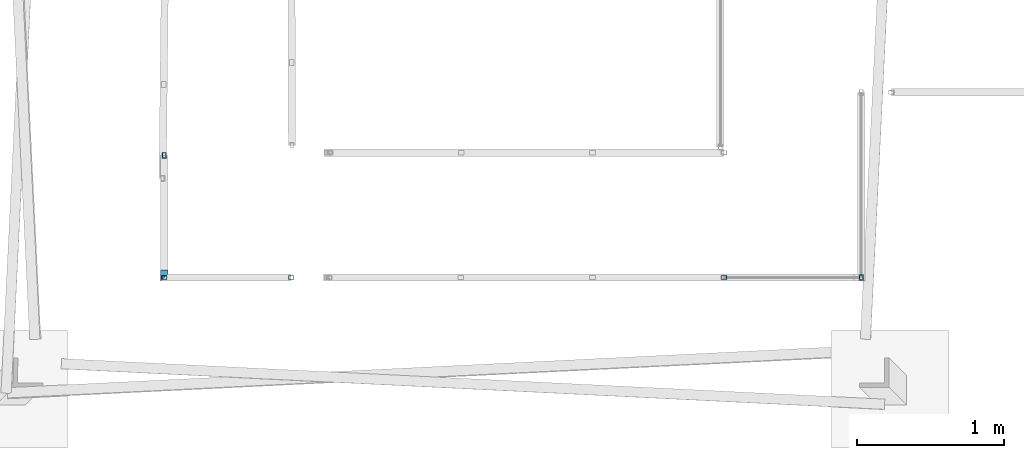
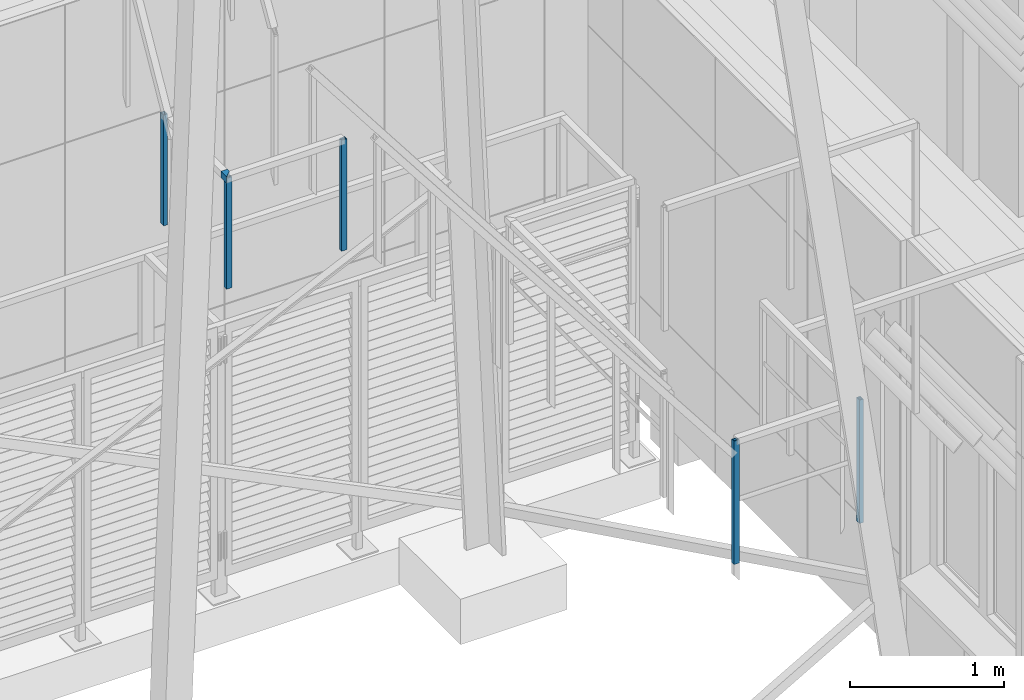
# One storey, part 14 of 418: 6 members, 2 elements without a shape of their own.
"""IFC2X3 building model written with IfcOpenShell, lengths in millimetres."""

from ifc_helpers import new_model, entity, si_unit, converted_unit, derived_unit, money_unit, direction, frame, origin_with_axes, place, context, subcontext, project, spatial, faceted_brep, source, transform, mapped, material, type_object, element, aggregate, save


model = new_model("IFC2X3")

# Units and contexts
model_context = context("Model", 3, precision=0.01, world=origin_with_axes(), true_north=direction((0.0, 1.0)))
body_context = subcontext(model_context, "Body", "Model", "MODEL_VIEW")
ifc_project = project(units=[si_unit("LENGTHUNIT", "METRE", prefix="MILLI"), si_unit("AREAUNIT", "SQUARE_METRE"), si_unit("VOLUMEUNIT", "CUBIC_METRE"), converted_unit("PLANEANGLEUNIT", "DEGREE", entity("IfcPlaneAngleMeasure", 0.0174532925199), si_unit("PLANEANGLEUNIT", "RADIAN"), dimensions=[0, 0, 0, 0, 0, 0, 0]), si_unit("SOLIDANGLEUNIT", "STERADIAN"), money_unit("EUR"), converted_unit("TIMEUNIT", "Year", entity("IfcTimeMeasure", 31556926.0), si_unit("TIMEUNIT", "SECOND"), dimensions=[0, 0, 1, 0, 0, 0, 0]), si_unit("MASSUNIT", "GRAM", prefix="KILO"), si_unit("THERMODYNAMICTEMPERATUREUNIT", "DEGREE_CELSIUS"), si_unit("LUMINOUSINTENSITYUNIT", "LUMEN"), si_unit("ENERGYUNIT", "JOULE", prefix="MEGA"), derived_unit("THERMALCONDUCTANCEUNIT", [(si_unit("POWERUNIT", "WATT"), 1), (si_unit("LENGTHUNIT", "METRE"), -1), (si_unit("THERMODYNAMICTEMPERATUREUNIT", "KELVIN"), -1)]), derived_unit("SPECIFICHEATCAPACITYUNIT", [(si_unit("ENERGYUNIT", "JOULE"), 1), (si_unit("MASSUNIT", "GRAM", prefix="KILO"), -1), (si_unit("THERMODYNAMICTEMPERATUREUNIT", "KELVIN"), -1)]), derived_unit("MASSDENSITYUNIT", [(si_unit("MASSUNIT", "GRAM", prefix="KILO"), 1), (si_unit("VOLUMEUNIT", "CUBIC_METRE"), -1)])], contexts=[model_context])

# Site, building, storey
site_placement = place(None, origin_with_axes())
site = spatial("IfcSite", under=ifc_project, at=site_placement, Name="Paldiski mnt 245/1, Tallinn, Harjumaa", CompositionType="COMPLEX")
building_placement = place(site_placement, origin_with_axes())
building = spatial("IfcBuilding", under=site, at=building_placement, Name="RKAS Hoone üldnimetus (kasutust iseloomustav) -> IFC Project Manager -> SOLIBRI", CompositionType="ELEMENT")
storey_placement = place(building_placement, origin_with_axes())
storey = spatial("IfcBuildingStorey", under=building, at=storey_placement, Name="Esimene korrus", CompositionType="ELEMENT", Elevation=0.0)

# Railing, members
railing_type = type_object("IfcRailingType", Name="Railing Type", PredefinedType="NOTDEFINED")
railing_1_placement = place(storey_placement, frame((-50030.6058534, -6155.24631697, 3600.0), z_axis=(0.0, 0.0, 1.0), x_axis=(-0.773149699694, -0.634223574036, 0.0)))
railing_1 = element("IfcRailing", 1, at=railing_1_placement, inside=storey, type_object=railing_type, Name="PIIRE", PredefinedType="NOTDEFINED")
ifc_material_1 = material(Name="ET-06_Teras - Konstruktsioon")
member_type_1 = type_object("IfcMemberType", Name="IfcMember", PredefinedType="POST")
shared_shape_1 = source(origin_with_axes(), body_context, "Body", "Brep", [
    faceted_brep([(15.0, 20.0, 0.0), (-15.0, 20.0, 0.0), (-15.0, 20.0, 980.0), (15.0, 20.0, 980.0), (15.0, -20.0, 0.0), (-15.0, -20.0, 0.0), (10.0, 15.0, 0.0), (-10.0, 15.0, 0.0), (-10.0, -15.0, 0.0), (10.0, -15.0, 0.0), (-15.0, -20.0, 980.0), (15.0, -20.0, 980.0), (10.0, 15.0, 980.0), (10.0, -15.0, 980.0), (-10.0, -15.0, 980.0), (-10.0, 15.0, 980.0)], [[[0, 1, 2, 3]], [[0, 4, 5, 1], [6, 7, 8, 9]], [[1, 5, 10, 2]], [[3, 2, 10, 11], [12, 13, 14, 15]], [[4, 0, 3, 11]], [[5, 4, 11, 10]], [[7, 6, 12, 15]], [[8, 7, 15, 14]], [[9, 8, 14, 13]], [[6, 9, 13, 12]]]),
])
member_1_placement = place(railing_1_placement, frame((957.617391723, 844.152788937, -100.0), z_axis=(0.0, 0.0, 1.0), x_axis=(-0.773149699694, 0.634223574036, 0.0)))
member_1 = element("IfcMember", 2, at=member_1_placement, type_object=member_type_1, material=ifc_material_1, Name="PIIRDE POST - 001", ObjectType="POST", context=body_context, shape_type="MappedRepresentation", body=[
    mapped(shared_shape_1, transform((0.0, 0.0, 0.0), x_axis=(-1.0, 0.0, 0.0), y_axis=(0.0, -1.0, 0.0), z_axis=(0.0, 0.0, 1.0))),
])
member_2_placement = place(railing_1_placement, frame((1679.94771633, 251.616931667, -100.0), z_axis=(0.0, 0.0, 1.0), x_axis=(-0.773149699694, 0.634223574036, 0.0)))
member_2 = element("IfcMember", 3, at=member_2_placement, type_object=member_type_1, material=ifc_material_1, Name="PIIRDE POST - 001", ObjectType="POST", context=body_context, shape_type="MappedRepresentation", body=[
    mapped(shared_shape_1, transform((0.0, 0.0, 0.0), x_axis=(0.0, 1.0, 0.0), y_axis=(-1.0, 0.0, 0.0), z_axis=(0.0, 0.0, 1.0))),
])
aggregate(railing_1, [member_1, member_2])

railing_2_placement = place(storey_placement, frame((-54114.8755361, -7423.92064935, 7119.375), z_axis=(0.0, 0.0, 1.0), x_axis=(-0.773149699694, -0.634223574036, 0.0)))
railing_2 = element("IfcRailing", 4, at=railing_2_placement, inside=storey, type_object=railing_type, Name="PIIRE", PredefinedType="NOTDEFINED")
shared_shape_2 = source(origin_with_axes(), body_context, "Body", "Brep", [
    faceted_brep([(15.0, 20.0, 0.0), (-15.0, 20.0, 0.0), (-15.0, 20.0, 880.0), (15.0, 20.0, 880.0), (15.0, -20.0, 0.0), (-15.0, -20.0, 0.0), (10.0, 15.0, 0.0), (-10.0, 15.0, 0.0), (-10.0, -15.0, 0.0), (10.0, -15.0, 0.0), (-15.0, -20.0, 880.0), (15.0, -20.0, 880.0), (10.0, 15.0, 880.0), (10.0, -15.0, 880.0), (-10.0, -15.0, 880.0), (-10.0, 15.0, 880.0)], [[[0, 1, 2, 3]], [[0, 4, 5, 1], [6, 7, 8, 9]], [[1, 5, 10, 2]], [[3, 2, 10, 11], [12, 13, 14, 15]], [[4, 0, 3, 11]], [[5, 4, 11, 10]], [[7, 6, 12, 15]], [[8, 7, 15, 14]], [[9, 8, 14, 13]], [[6, 9, 13, 12]]]),
])
member_3_placement = place(railing_2_placement, frame((-5.50146608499, -6.70655747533, -100.0), z_axis=(0.0, 0.0, 1.0), x_axis=(-0.773149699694, 0.634223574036, 0.0)))
member_3 = element("IfcMember", 5, at=member_3_placement, type_object=member_type_1, material=ifc_material_1, Name="PIIRDE POST - 001", ObjectType="POST", context=body_context, shape_type="MappedRepresentation", body=[
    mapped(shared_shape_2, transform((0.0, 0.0, 0.0), x_axis=(0.0, 1.0, 0.0), y_axis=(-1.0, 0.0, 0.0), z_axis=(0.0, 0.0, 1.0))),
])
member_4_placement = place(railing_2_placement, frame((662.623931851, -554.777491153, -100.0), z_axis=(0.0, 0.0, 1.0), x_axis=(-0.773149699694, 0.634223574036, 0.0)))
member_4 = element("IfcMember", 6, at=member_4_placement, type_object=member_type_1, material=ifc_material_1, Name="PIIRDE POST - 001", ObjectType="POST", context=body_context, shape_type="MappedRepresentation", body=[
    mapped(shared_shape_2, transform((0.0, 0.0, 0.0), x_axis=(0.0, 1.0, 0.0), y_axis=(-1.0, 0.0, 0.0), z_axis=(0.0, 0.0, 1.0))),
])
member_5_placement = place(railing_2_placement, frame((135.298139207, -1197.61354284, -100.0), z_axis=(0.0, 0.0, 1.0), x_axis=(-0.773149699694, 0.634223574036, 0.0)))
member_5 = element("IfcMember", 7, at=member_5_placement, type_object=member_type_1, material=ifc_material_1, Name="PIIRDE POST - 001", ObjectType="POST", context=body_context, shape_type="MappedRepresentation", body=[
    mapped(shared_shape_2, transform((0.0, 0.0, 0.0))),
])
ifc_material_2 = material(Name="ET-07_Teras - Roostevaba")
member_type_2 = type_object("IfcMemberType", Name="IfcMember", PredefinedType="USERDEFINED")
shared_shape_3 = source(origin_with_axes(), body_context, "Body", "Brep", [
    faceted_brep([(50.0, 15.0, 860.0), (50.0, 15.0, 890.0), (-15.0, 15.0, 890.0), (-15.0, 15.0, 860.0), (50.0, 25.0, 850.0), (50.0, 25.0, 900.0), (50.0, -25.0, 900.0), (50.0, -25.0, 850.0), (50.0, -15.0, 890.0), (50.0, -15.0, 860.0), (15.0, -15.0, 890.0), (-25.0, 25.0, 900.0), (-25.0, 25.0, 850.0), (25.0, -25.0, 850.0), (25.0, -25.0, 900.0), (15.0, -15.0, 860.0)], [[[0, 1, 2, 3]], [[4, 5, 6, 7], [8, 1, 0, 9]], [[1, 8, 10, 2]], [[11, 12, 13, 14], [15, 3, 2, 10]], [[9, 0, 3, 15]], [[5, 4, 12, 11]], [[6, 5, 11, 14]], [[7, 6, 14, 13]], [[4, 7, 13, 12]], [[8, 9, 15, 10]]]),
])
member_6_placement = place(railing_2_placement, frame((0.0, 0.0, 0.0), z_axis=(0.0, 0.0, 1.0), x_axis=(-0.773149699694, 0.634223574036, 0.0)))
member_6 = element("IfcMember", 8, at=member_6_placement, type_object=member_type_2, material=ifc_material_2, Name="Piirde ülemise osa ühendus - 001", ObjectType="Rail", context=body_context, shape_type="MappedRepresentation", body=[
    mapped(shared_shape_3, transform((-864.160457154, 8.67433238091, -100.0), x_axis=(0.0, 1.0, 0.0), y_axis=(-1.0, 0.0, 0.0), z_axis=(0.0, 0.0, 1.0))),
])
aggregate(railing_2, [member_3, member_4, member_6, member_5])

save(model, "model.ifc")
